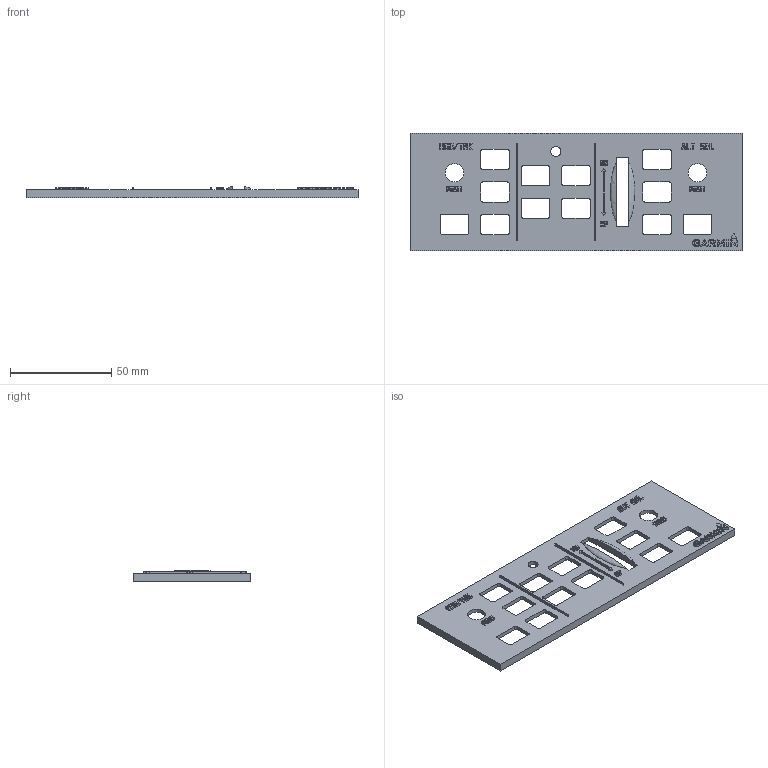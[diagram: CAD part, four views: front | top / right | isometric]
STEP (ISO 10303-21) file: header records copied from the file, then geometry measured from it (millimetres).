
FILE_DESCRIPTION(('FreeCAD Model'),'2;1');
FILE_NAME('E:/CAD Designs/Garmin/Final/CAD files/STEP/face_plate.step', '2021-02-27T12:57:17',('Author'),(''), 'Open CASCADE STEP processor 7.3','FreeCAD','Unknown');
FILE_SCHEMA(('AUTOMOTIVE_DESIGN { 1 0 10303 214 1 1 1 1 }'));
Length unit declared in the file: millimetre
Products named in the file (40): Body; Extrude005; Extrude003; Extrude004; Extrude; Extrude002; Extrude001; Extrude008; Extrude022; Extrude024; Extrude010; Extrude027; Extrude023; Extrude009; Extrude028; Extrude029; Extrude030; Extrude019; Extrude016; Extrude017; Extrude018; Extrude031; Extrude011; Extrude015; Extrude007; Extrude013; Extrude014; Extrude020; Extrude026; Extrude025; Extrude006; Extrude021; Extrude012; Extrude033; Extrude036; Extrude032; Extrude034; Extrude038; Extrude037; Extrude035
Bounding box: 164 x 58 x 5.68 mm (x, y, z)
Volume: 17173.9 mm3; surface area: 20841.3 mm2
Topology: 78 solids, 78 shells, 1509 faces, 4047 edges, 2697 vertices
Faces by surface type: extrusion 764, plane 692, cylinder 51, bspline 2
Full cylindrical faces by diameter (mm): 5 x1, 9 x2
Entity records: 105947 total; most frequent: CARTESIAN_POINT 28679, DIRECTION 11367, VECTOR 9621, LINE 8857, ORIENTED_EDGE 8092, PCURVE 8092, DEFINITIONAL_REPRESENTATION 8092, EDGE_CURVE 4046
